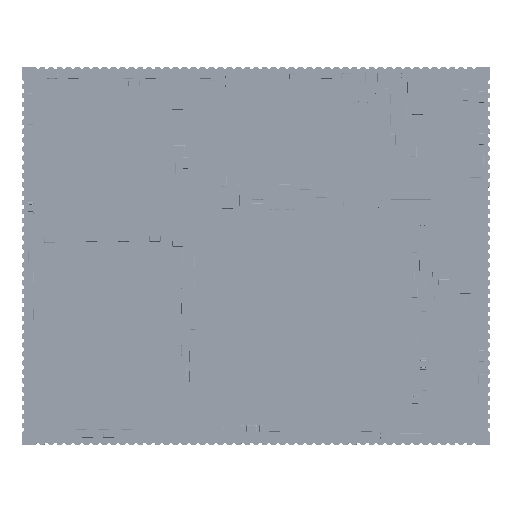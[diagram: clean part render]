
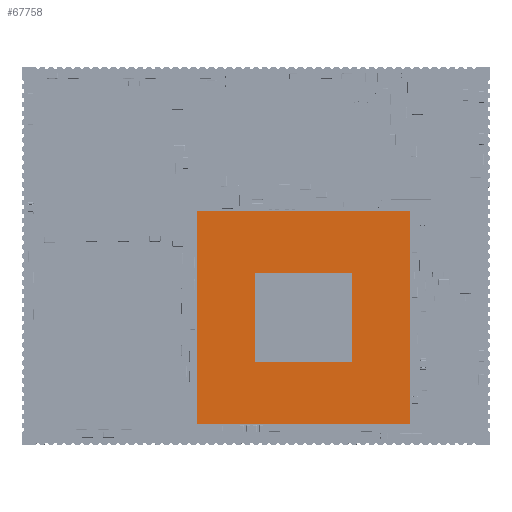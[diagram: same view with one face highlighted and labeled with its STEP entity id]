
A CAD part, top view. The second image highlights one B-rep face of the part: STEP entity #67758.
In plain terms, the highlighted planar face has unit normal (0, 0, 1).
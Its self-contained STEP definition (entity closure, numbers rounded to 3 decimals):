
#3103 = LINE ( 'NONE', #63537, #86604 ) ;
#4368 = DIRECTION ( 'NONE',  ( -1., 0., 0. ) ) ;
#6532 = LINE ( 'NONE', #66980, #104065 ) ;
#8749 = EDGE_CURVE ( 'NONE', #22439, #73160, #3103, .T. ) ;
#15038 = ORIENTED_EDGE ( 'NONE', *, *, #43459, .T. ) ;
#15621 = LINE ( 'NONE', #192209, #132068 ) ;
#20384 = DIRECTION ( 'NONE',  ( 0., 1., 0. ) ) ;
#22439 = VERTEX_POINT ( 'NONE', #137731 ) ;
#23996 = VECTOR ( 'NONE', #24135, 1000. ) ;
#24135 = DIRECTION ( 'NONE',  ( -1., 0., 0. ) ) ;
#28163 = CARTESIAN_POINT ( 'NONE',  ( -9.55, -9.55, 0.93 ) ) ;
#32890 = CARTESIAN_POINT ( 'NONE',  ( 9.55, -9.55, 0.93 ) ) ;
#34106 = LINE ( 'NONE', #94659, #120937 ) ;
#35021 = EDGE_LOOP ( 'NONE', ( #177982, #76541, #46944, #127307 ) ) ;
#36673 = VECTOR ( 'NONE', #88713, 1000. ) ;
#43459 = EDGE_CURVE ( 'NONE', #116800, #91826, #123227, .T. ) ;
#44562 = DIRECTION ( 'NONE',  ( 1., 0., 0. ) ) ;
#46944 = ORIENTED_EDGE ( 'NONE', *, *, #103891, .F. ) ;
#47677 = CARTESIAN_POINT ( 'NONE',  ( 9.55, 9.55, 0.93 ) ) ;
#48271 = VECTOR ( 'NONE', #172532, 1000. ) ;
#48944 = CARTESIAN_POINT ( 'NONE',  ( -4.35, 4., 0.93 ) ) ;
#54729 = CARTESIAN_POINT ( 'NONE',  ( 9.55, -9.55, 0.93 ) ) ;
#56307 = DIRECTION ( 'NONE',  ( 0., -1., 0. ) ) ;
#61412 = CARTESIAN_POINT ( 'NONE',  ( 0., 0., 0.93 ) ) ;
#63537 = CARTESIAN_POINT ( 'NONE',  ( -9.55, 9.55, 0.93 ) ) ;
#64525 = ORIENTED_EDGE ( 'NONE', *, *, #166501, .T. ) ;
#66980 = CARTESIAN_POINT ( 'NONE',  ( 4.35, -4., 0.93 ) ) ;
#67758 = ADVANCED_FACE ( 'NONE', ( #116192, #149777 ), #86379, .T. ) ;
#70998 = ORIENTED_EDGE ( 'NONE', *, *, #8749, .T. ) ;
#73160 = VERTEX_POINT ( 'NONE', #153226 ) ;
#75006 = ORIENTED_EDGE ( 'NONE', *, *, #155262, .T. ) ;
#76541 = ORIENTED_EDGE ( 'NONE', *, *, #188087, .F. ) ;
#82294 = LINE ( 'NONE', #85251, #48271 ) ;
#85251 = CARTESIAN_POINT ( 'NONE',  ( -4.35, -4., 0.93 ) ) ;
#86379 = PLANE ( 'NONE',  #130210 ) ;
#86604 = VECTOR ( 'NONE', #124143, 1000. ) ;
#88713 = DIRECTION ( 'NONE',  ( 1., 0., 0. ) ) ;
#91826 = VERTEX_POINT ( 'NONE', #47677 ) ;
#94659 = CARTESIAN_POINT ( 'NONE',  ( -4.35, 4., 0.93 ) ) ;
#97069 = EDGE_LOOP ( 'NONE', ( #70998, #64525, #15038, #75006 ) ) ;
#103891 = EDGE_CURVE ( 'NONE', #195033, #168783, #15621, .T. ) ;
#104065 = VECTOR ( 'NONE', #20384, 1000. ) ;
#105427 = DIRECTION ( 'NONE',  ( 0., 1., 0. ) ) ;
#106564 = VERTEX_POINT ( 'NONE', #187639 ) ;
#109945 = CARTESIAN_POINT ( 'NONE',  ( -4.35, -4., 0.93 ) ) ;
#112306 = VECTOR ( 'NONE', #105427, 1000. ) ;
#116192 = FACE_BOUND ( 'NONE', #35021, .T. ) ;
#116800 = VERTEX_POINT ( 'NONE', #54729 ) ;
#119986 = CARTESIAN_POINT ( 'NONE',  ( 4.35, -4., 0.93 ) ) ;
#120937 = VECTOR ( 'NONE', #4368, 1000. ) ;
#123227 = LINE ( 'NONE', #32890, #112306 ) ;
#124143 = DIRECTION ( 'NONE',  ( 0., -1., 0. ) ) ;
#127307 = ORIENTED_EDGE ( 'NONE', *, *, #151354, .F. ) ;
#130210 = AXIS2_PLACEMENT_3D ( 'NONE', #61412, #166556, #44562 ) ;
#132068 = VECTOR ( 'NONE', #56307, 1000. ) ;
#137731 = CARTESIAN_POINT ( 'NONE',  ( -9.55, 9.55, 0.93 ) ) ;
#148520 = EDGE_CURVE ( 'NONE', #184905, #106564, #6532, .T. ) ;
#149777 = FACE_OUTER_BOUND ( 'NONE', #97069, .T. ) ;
#151354 = EDGE_CURVE ( 'NONE', #106564, #195033, #34106, .T. ) ;
#153226 = CARTESIAN_POINT ( 'NONE',  ( -9.55, -9.55, 0.93 ) ) ;
#155262 = EDGE_CURVE ( 'NONE', #91826, #22439, #174863, .T. ) ;
#160009 = CARTESIAN_POINT ( 'NONE',  ( 9.55, 9.55, 0.93 ) ) ;
#165945 = LINE ( 'NONE', #28163, #36673 ) ;
#166501 = EDGE_CURVE ( 'NONE', #73160, #116800, #165945, .T. ) ;
#166556 = DIRECTION ( 'NONE',  ( 0., 0., 1. ) ) ;
#168783 = VERTEX_POINT ( 'NONE', #109945 ) ;
#172532 = DIRECTION ( 'NONE',  ( 1., 0., 0. ) ) ;
#174863 = LINE ( 'NONE', #160009, #23996 ) ;
#177982 = ORIENTED_EDGE ( 'NONE', *, *, #148520, .F. ) ;
#184905 = VERTEX_POINT ( 'NONE', #119986 ) ;
#187639 = CARTESIAN_POINT ( 'NONE',  ( 4.35, 4., 0.93 ) ) ;
#188087 = EDGE_CURVE ( 'NONE', #168783, #184905, #82294, .T. ) ;
#192209 = CARTESIAN_POINT ( 'NONE',  ( -4.35, -4., 0.93 ) ) ;
#195033 = VERTEX_POINT ( 'NONE', #48944 ) ;
